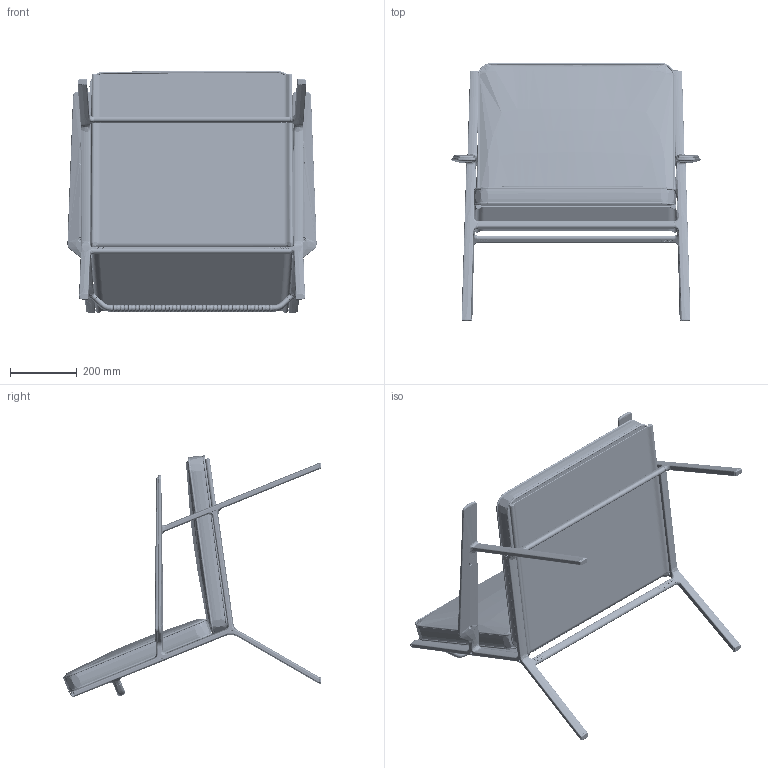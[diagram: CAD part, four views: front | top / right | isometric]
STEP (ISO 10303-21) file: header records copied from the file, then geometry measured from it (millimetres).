
FILE_DESCRIPTION (( 'STEP AP214' ), '1' );
FILE_NAME ('V713 Outdoor Lounge Chair.STEP', '2022-11-16T10:13:29', ( '' ), ( '' ), 'SwSTEP 2.0', 'SolidWorks 2019', '' );
FILE_SCHEMA (( 'AUTOMOTIVE_DESIGN' ));
Length unit declared in the file: millimetre
Products named in the file (1): V713 Outdoor Lounge Chair
Bounding box: 747.31 x 774.59 x 726.29 mm (x, y, z)
Surface area: 3606551.9 mm2 (no closed solid volume)
Topology: 0 solids, 149 shells, 6086 faces, 15200 edges, 9391 vertices
Faces by surface type: cylinder 2251, bspline 1942, plane 1572, cone 237, torus 61, sphere 23
Entity records: 323788 total; most frequent: CARTESIAN_POINT 191024, ORIENTED_EDGE 30158, DIRECTION 23745, EDGE_CURVE 15087, VERTEX_POINT 9377, AXIS2_PLACEMENT_3D 9112, EDGE_LOOP 6474, FACE_OUTER_BOUND 6083
